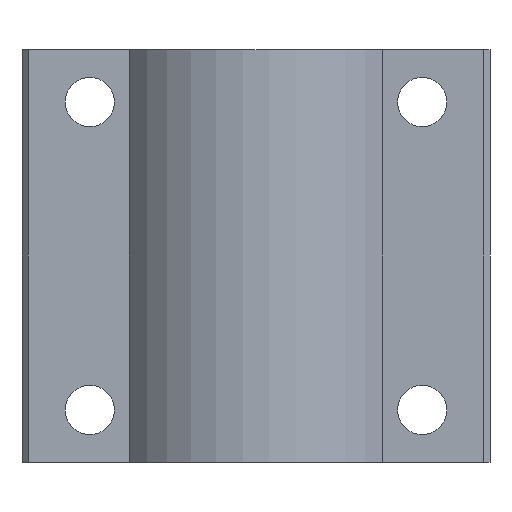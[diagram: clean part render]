
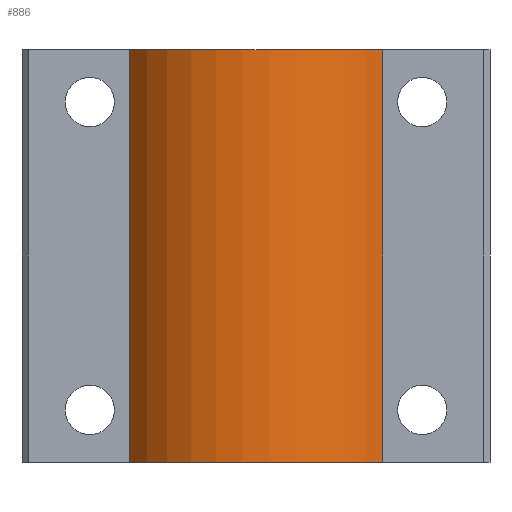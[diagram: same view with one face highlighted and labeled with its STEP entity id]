
A CAD part, front view. The second image highlights one B-rep face of the part: STEP entity #886.
In plain terms, the highlighted cylindrical face has radius 25.5 mm (diameter 51 mm), a partial arc.
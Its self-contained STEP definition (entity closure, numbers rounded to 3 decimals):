
#689=CARTESIAN_POINT('',(19.913,-10.802,-4.));
#690=VERTEX_POINT('',#689);
#697=CARTESIAN_POINT('',(-21.33,-10.802,-4.));
#698=VERTEX_POINT('',#697);
#699=CARTESIAN_POINT('',(-0.709,4.198,-4.));
#700=DIRECTION('',(0.0,0.0,1.0));
#701=DIRECTION('',(0.809,0.588,0.0));
#702=AXIS2_PLACEMENT_3D('',#699,#700,#701);
#703=CIRCLE('',#702,25.5);
#704=EDGE_CURVE('',#698,#690,#703,.T.);
#835=CARTESIAN_POINT('',(19.913,-10.802,63.));
#836=VERTEX_POINT('',#835);
#843=CARTESIAN_POINT('',(19.913,-10.802,63.));
#844=DIRECTION('',(0.0,0.0,-1.0));
#845=VECTOR('',#844,67.);
#846=LINE('',#843,#845);
#847=EDGE_CURVE('',#836,#690,#846,.T.);
#862=CARTESIAN_POINT('',(-0.709,4.198,29.5));
#863=DIRECTION('',(0.0,0.0,1.0));
#864=DIRECTION('',(0.809,0.588,0.0));
#865=AXIS2_PLACEMENT_3D('',#862,#863,#864);
#866=CYLINDRICAL_SURFACE('',#865,25.5);
#867=CARTESIAN_POINT('',(-21.33,-10.802,63.));
#868=VERTEX_POINT('',#867);
#869=CARTESIAN_POINT('',(-0.709,4.198,63.));
#870=DIRECTION('',(0.0,0.0,-1.0));
#871=DIRECTION('',(0.809,0.588,0.0));
#872=AXIS2_PLACEMENT_3D('',#869,#870,#871);
#873=CIRCLE('',#872,25.5);
#874=EDGE_CURVE('',#836,#868,#873,.T.);
#875=ORIENTED_EDGE('',*,*,#874,.T.);
#876=CARTESIAN_POINT('',(-21.33,-10.802,63.));
#877=DIRECTION('',(0.0,0.0,-1.0));
#878=VECTOR('',#877,67.);
#879=LINE('',#876,#878);
#880=EDGE_CURVE('',#868,#698,#879,.T.);
#881=ORIENTED_EDGE('',*,*,#880,.T.);
#882=ORIENTED_EDGE('',*,*,#704,.T.);
#883=ORIENTED_EDGE('',*,*,#847,.F.);
#884=EDGE_LOOP('',(#875,#881,#882,#883));
#885=FACE_OUTER_BOUND('',#884,.T.);
#886=ADVANCED_FACE('',(#885),#866,.T.);
